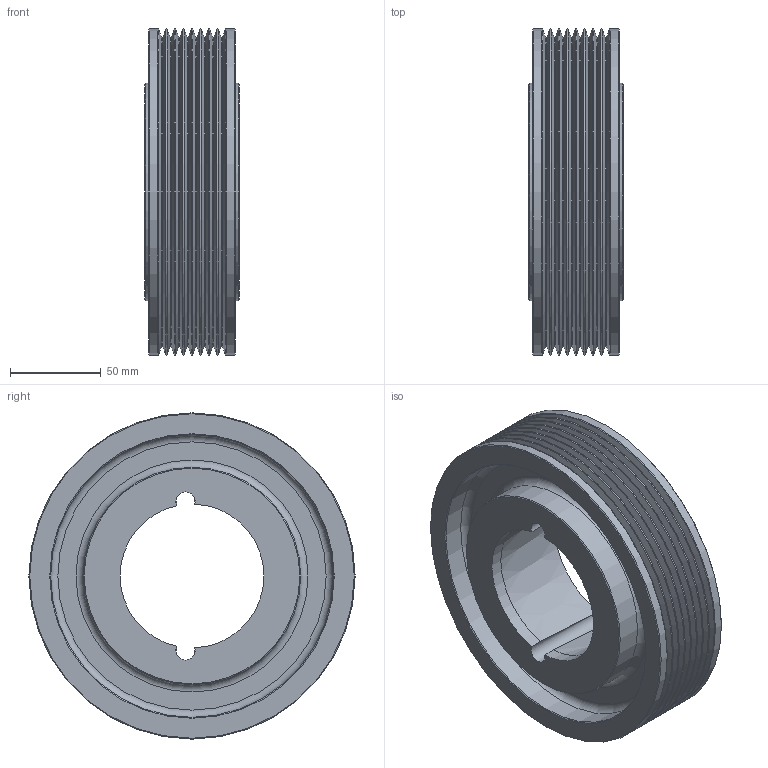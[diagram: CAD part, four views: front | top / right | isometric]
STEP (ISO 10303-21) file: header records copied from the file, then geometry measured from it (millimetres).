
FILE_DESCRIPTION(/* description */ (''),/* implementation_level */ '2;1');
FILE_NAME(/* name */ 'C:\Users\stagistacad\Desktop\48208280.stp',/* time_stamp */ '2018-06-14T09:53:13+02:00',/* author */ ('stagistacad'),/* organization */ (''),/* preprocessor_version */ 'ST-DEVELOPER v15.6',/* originating_system */ 'Autodesk Inventor 2015',/* authorisation */ '');
FILE_SCHEMA (('AUTOMOTIVE_DESIGN { 1 0 10303 214 3 1 1 }'));
Length unit declared in the file: millimetre
Products named in the file (1): 48208280
Bounding box: 52 x 180 x 180 mm (x, y, z)
Volume: 689552.5 mm3; surface area: 135433.4 mm2
Topology: 1 solids, 1 shells, 63 faces, 130 edges, 72 vertices
Faces by surface type: cone 25, torus 21, cylinder 11, plane 6
Full cylindrical faces by diameter (mm): 120 x2, 156 x2, 180 x2
Entity records: 1456 total; most frequent: CARTESIAN_POINT 283, DIRECTION 266, ORIENTED_EDGE 156, AXIS2_PLACEMENT_3D 131, EDGE_LOOP 118, EDGE_CURVE 78, VERTEX_POINT 70, CIRCLE 67
